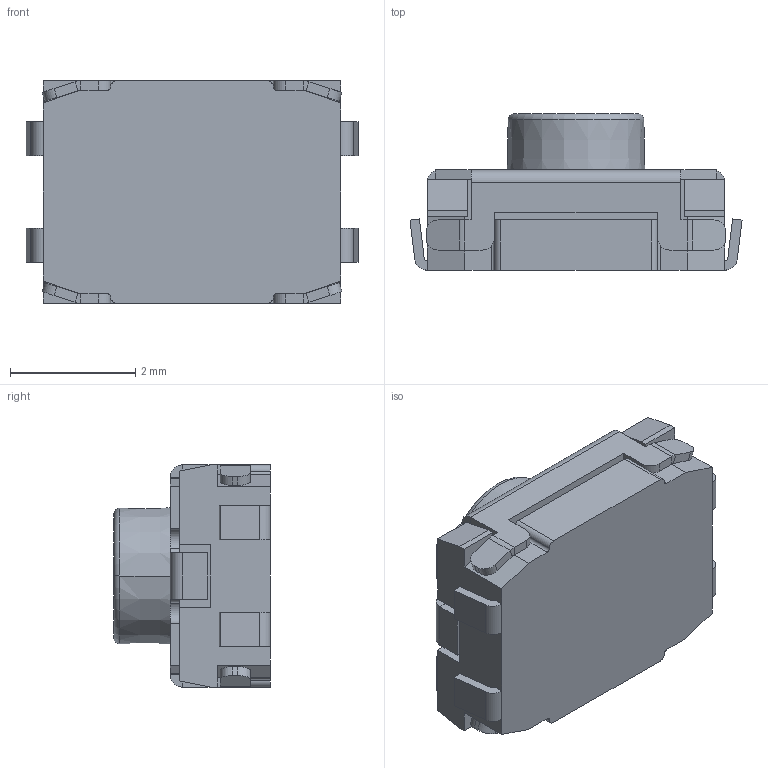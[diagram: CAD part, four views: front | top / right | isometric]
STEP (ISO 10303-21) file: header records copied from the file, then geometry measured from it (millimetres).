
FILE_DESCRIPTION((''),'2;1');
FILE_NAME('JQH3547-C0251-01BEG-1-105_ASM','2026-06-29T11:53:42',('Admin'),(''),'CREO PARAMETRIC BY PTC INC, 2019224','CREO PARAMETRIC BY PTC INC, 2019224','');
FILE_SCHEMA(('AUTOMOTIVE_DESIGN { 1 0 10303 214 1 1 1 1 }'));
Length unit declared in the file: millimetre
Products named in the file (3): JQH3547-C0251-01BEG-1-105_01; JQH3547-C0251-01BEG-1-105_02; JQH3547-C0251-01BEG-1-105_ASM
Assembly tree (2 placements, depth 2):
  JQH3547-C0251-01BEG-1-105_ASM
    JQH3547-C0251-01BEG-1-105_01
    JQH3547-C0251-01BEG-1-105_02
Bounding box: 5.3 x 2.5 x 3.55 mm (x, y, z)
Volume: 29.6 mm3; surface area: 108.1 mm2
Topology: 2 solids, 2 shells, 199 faces, 512 edges, 322 vertices
Faces by surface type: plane 141, cylinder 54, cone 2, torus 2
Entity records: 7217 total; most frequent: DIRECTION 1048, CARTESIAN_POINT 1043, ORIENTED_EDGE 1016, EDGE_CURVE 508, VECTOR 396, LINE 396, AXIS2_PLACEMENT_3D 326, VERTEX_POINT 314
